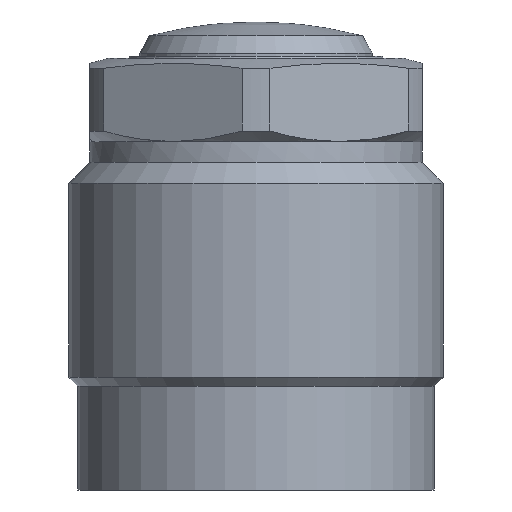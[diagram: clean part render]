
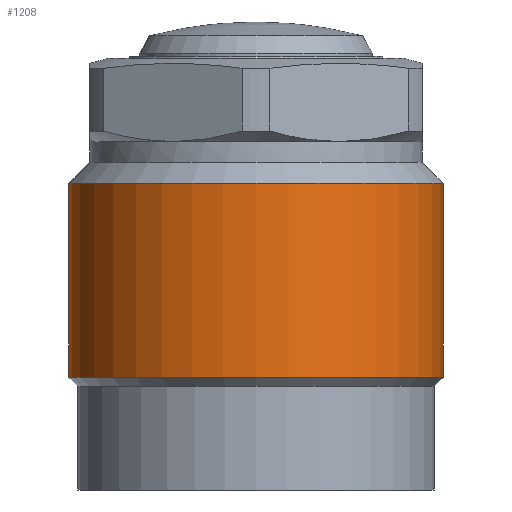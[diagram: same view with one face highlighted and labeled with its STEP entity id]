
A CAD part, front view. The second image highlights one B-rep face of the part: STEP entity #1208.
In plain terms, the highlighted cylindrical face has radius 18 mm (diameter 36 mm), a partial arc.
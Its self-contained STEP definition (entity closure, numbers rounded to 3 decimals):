
#1145=CARTESIAN_POINT('',(-18.,0.0,-30.65));
#1146=VERTEX_POINT('',#1145);
#1154=CARTESIAN_POINT('',(18.,0.0,-30.65));
#1155=VERTEX_POINT('',#1154);
#1162=CARTESIAN_POINT('',(-0.0,0.0,-30.65));
#1163=DIRECTION('',(0.0,0.0,1.0));
#1164=DIRECTION('',(1.0,0.0,0.0));
#1165=AXIS2_PLACEMENT_3D('',#1162,#1163,#1164);
#1166=CIRCLE('',#1165,18.);
#1167=EDGE_CURVE('no 1878',#1146,#1155,#1166,.T.);
#1177=CARTESIAN_POINT('',(-18.,0.0,-12.));
#1178=VERTEX_POINT('',#1177);
#1179=CARTESIAN_POINT('',(-18.,0.0,-30.65));
#1180=DIRECTION('',(0.0,-0.0,1.0));
#1181=VECTOR('',#1180,1.0);
#1182=LINE('',#1179,#1181);
#1183=EDGE_CURVE('no 1888',#1146,#1178,#1182,.T.);
#1184=ORIENTED_EDGE('',*,*,#1183,.F.);
#1185=ORIENTED_EDGE('',*,*,#1167,.T.);
#1186=CARTESIAN_POINT('',(18.,0.0,-12.));
#1187=VERTEX_POINT('',#1186);
#1188=CARTESIAN_POINT('',(18.,0.0,-30.65));
#1189=DIRECTION('',(0.0,0.0,1.0));
#1190=VECTOR('',#1189,1.0);
#1191=LINE('',#1188,#1190);
#1192=EDGE_CURVE('no 1896',#1155,#1187,#1191,.T.);
#1193=ORIENTED_EDGE('',*,*,#1192,.T.);
#1194=CARTESIAN_POINT('',(-0.0,0.0,-12.));
#1195=DIRECTION('',(0.0,0.0,1.0));
#1196=DIRECTION('',(1.0,0.0,0.0));
#1197=AXIS2_PLACEMENT_3D('',#1194,#1195,#1196);
#1198=CIRCLE('',#1197,18.);
#1199=EDGE_CURVE('no 1900',#1178,#1187,#1198,.T.);
#1200=ORIENTED_EDGE('',*,*,#1199,.F.);
#1201=EDGE_LOOP('',(#1184,#1185,#1193,#1200));
#1202=FACE_OUTER_BOUND('',#1201,.T.);
#1203=CARTESIAN_POINT('',(-0.0,0.0,4.451));
#1204=DIRECTION('',(0.0,0.0,1.0));
#1205=DIRECTION('',(0.0,1.0,0.0));
#1206=AXIS2_PLACEMENT_3D('',#1203,#1204,#1205);
#1207=CYLINDRICAL_SURFACE('',#1206,18.);
#1208=ADVANCED_FACE('no 1881',(#1202),#1207,.T.);
